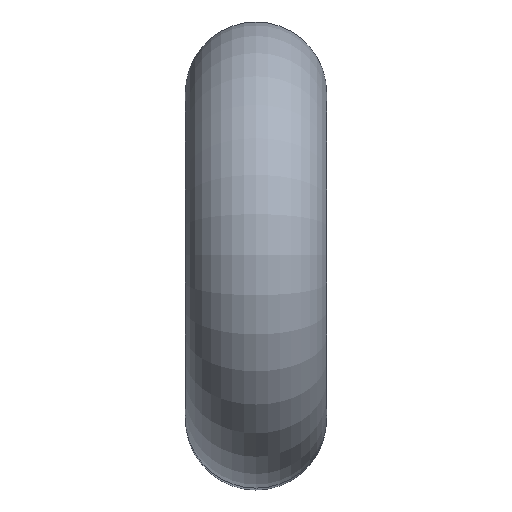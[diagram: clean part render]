
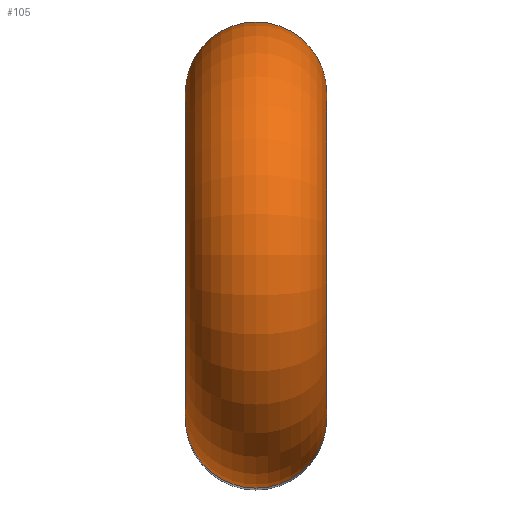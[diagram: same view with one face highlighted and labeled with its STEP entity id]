
A CAD part, top view. The second image highlights one B-rep face of the part: STEP entity #105.
In plain terms, the highlighted toroidal (fillet/blend) face has major radius 9.2 mm and minor radius 4 mm.
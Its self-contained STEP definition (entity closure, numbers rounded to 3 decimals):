
#24 = VERTEX_POINT('',#25);
#25 = CARTESIAN_POINT('',(2.307,-5.2,816.279));
#32 = CYLINDRICAL_SURFACE('',#33,4.);
#33 = AXIS2_PLACEMENT_3D('',#34,#35,#36);
#34 = CARTESIAN_POINT('',(2.307,-9.2,756.279));
#35 = DIRECTION('',(0.,0.,1.));
#36 = DIRECTION('',(0.,1.,0.));
#51 = EDGE_CURVE('',#24,#24,#52,.T.);
#52 = SURFACE_CURVE('',#53,(#58,#65),.PCURVE_S1.);
#53 = CIRCLE('',#54,4.);
#54 = AXIS2_PLACEMENT_3D('',#55,#56,#57);
#55 = CARTESIAN_POINT('',(2.307,-9.2,816.279));
#56 = DIRECTION('',(0.,-0.,1.));
#57 = DIRECTION('',(0.,1.,0.));
#58 = PCURVE('',#32,#59);
#59 = DEFINITIONAL_REPRESENTATION('',(#60),#64);
#60 = LINE('',#61,#62);
#61 = CARTESIAN_POINT('',(0.,60.));
#62 = VECTOR('',#63,1.);
#63 = DIRECTION('',(1.,0.));
#64 = ( GEOMETRIC_REPRESENTATION_CONTEXT(2) 
PARAMETRIC_REPRESENTATION_CONTEXT() REPRESENTATION_CONTEXT('2D SPACE',''
  ) );
#65 = PCURVE('',#66,#71);
#66 = TOROIDAL_SURFACE('',#67,9.2,4.);
#67 = AXIS2_PLACEMENT_3D('',#68,#69,#70);
#68 = CARTESIAN_POINT('',(2.307,0.,816.279));
#69 = DIRECTION('',(-1.,0.,0.));
#70 = DIRECTION('',(0.,-1.,0.));
#71 = DEFINITIONAL_REPRESENTATION('',(#72),#76);
#72 = LINE('',#73,#74);
#73 = CARTESIAN_POINT('',(0.,9.425));
#74 = VECTOR('',#75,1.);
#75 = DIRECTION('',(-0.,-1.));
#76 = ( GEOMETRIC_REPRESENTATION_CONTEXT(2) 
PARAMETRIC_REPRESENTATION_CONTEXT() REPRESENTATION_CONTEXT('2D SPACE',''
  ) );
#105 = ADVANCED_FACE('',(#106),#66,.T.);
#106 = FACE_BOUND('',#107,.T.);
#107 = EDGE_LOOP('',(#108,#132,#159,#160));
#108 = ORIENTED_EDGE('',*,*,#109,.T.);
#109 = EDGE_CURVE('',#24,#110,#112,.T.);
#110 = VERTEX_POINT('',#111);
#111 = CARTESIAN_POINT('',(2.307,5.2,816.279));
#112 = SEAM_CURVE('',#113,(#118,#125),.PCURVE_S1.);
#113 = CIRCLE('',#114,5.2);
#114 = AXIS2_PLACEMENT_3D('',#115,#116,#117);
#115 = CARTESIAN_POINT('',(2.307,0.,816.279));
#116 = DIRECTION('',(-1.,0.,0.));
#117 = DIRECTION('',(0.,-1.,0.));
#118 = PCURVE('',#66,#119);
#119 = DEFINITIONAL_REPRESENTATION('',(#120),#124);
#120 = LINE('',#121,#122);
#121 = CARTESIAN_POINT('',(0.,3.142));
#122 = VECTOR('',#123,1.);
#123 = DIRECTION('',(1.,0.));
#124 = ( GEOMETRIC_REPRESENTATION_CONTEXT(2) 
PARAMETRIC_REPRESENTATION_CONTEXT() REPRESENTATION_CONTEXT('2D SPACE',''
  ) );
#125 = PCURVE('',#66,#126);
#126 = DEFINITIONAL_REPRESENTATION('',(#127),#131);
#127 = LINE('',#128,#129);
#128 = CARTESIAN_POINT('',(0.,9.425));
#129 = VECTOR('',#130,1.);
#130 = DIRECTION('',(1.,0.));
#131 = ( GEOMETRIC_REPRESENTATION_CONTEXT(2) 
PARAMETRIC_REPRESENTATION_CONTEXT() REPRESENTATION_CONTEXT('2D SPACE',''
  ) );
#132 = ORIENTED_EDGE('',*,*,#133,.T.);
#133 = EDGE_CURVE('',#110,#110,#134,.T.);
#134 = SURFACE_CURVE('',#135,(#140,#147),.PCURVE_S1.);
#135 = CIRCLE('',#136,4.);
#136 = AXIS2_PLACEMENT_3D('',#137,#138,#139);
#137 = CARTESIAN_POINT('',(2.307,9.2,816.279));
#138 = DIRECTION('',(0.,0.,1.));
#139 = DIRECTION('',(0.,1.,0.));
#140 = PCURVE('',#66,#141);
#141 = DEFINITIONAL_REPRESENTATION('',(#142),#146);
#142 = LINE('',#143,#144);
#143 = CARTESIAN_POINT('',(3.142,0.));
#144 = VECTOR('',#145,1.);
#145 = DIRECTION('',(0.,1.));
#146 = ( GEOMETRIC_REPRESENTATION_CONTEXT(2) 
PARAMETRIC_REPRESENTATION_CONTEXT() REPRESENTATION_CONTEXT('2D SPACE',''
  ) );
#147 = PCURVE('',#148,#153);
#148 = CYLINDRICAL_SURFACE('',#149,4.);
#149 = AXIS2_PLACEMENT_3D('',#150,#151,#152);
#150 = CARTESIAN_POINT('',(2.307,9.2,816.279));
#151 = DIRECTION('',(0.,0.,-1.));
#152 = DIRECTION('',(0.,-1.,0.));
#153 = DEFINITIONAL_REPRESENTATION('',(#154),#158);
#154 = LINE('',#155,#156);
#155 = CARTESIAN_POINT('',(9.425,0.));
#156 = VECTOR('',#157,1.);
#157 = DIRECTION('',(-1.,-0.));
#158 = ( GEOMETRIC_REPRESENTATION_CONTEXT(2) 
PARAMETRIC_REPRESENTATION_CONTEXT() REPRESENTATION_CONTEXT('2D SPACE',''
  ) );
#159 = ORIENTED_EDGE('',*,*,#109,.F.);
#160 = ORIENTED_EDGE('',*,*,#51,.T.);
